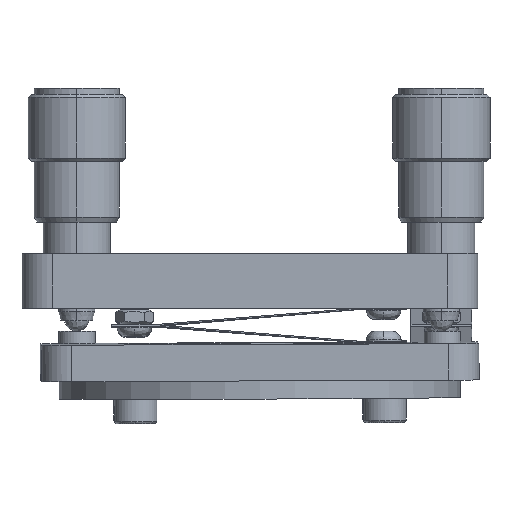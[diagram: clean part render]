
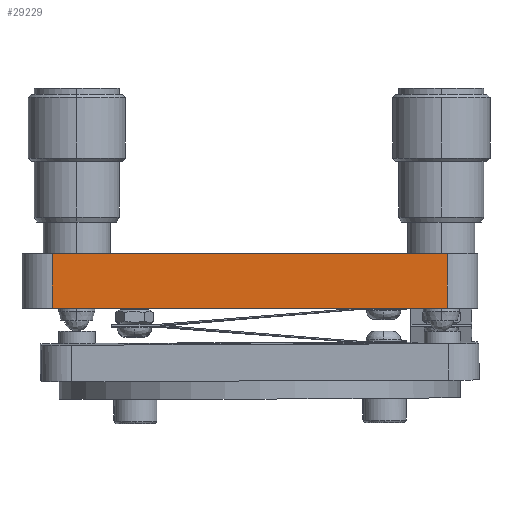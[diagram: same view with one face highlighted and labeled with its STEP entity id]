
A CAD part, left-side view. The second image highlights one B-rep face of the part: STEP entity #29229.
In plain terms, the highlighted planar face has unit normal (-1, 0, 0).
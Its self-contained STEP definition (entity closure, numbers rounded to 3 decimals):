
#12531 = FACE_OUTER_BOUND ( 'NONE', #29230, .T. ) ;
#12533 = PLANE ( 'NONE',  #12583 ) ;
#12535 = DIRECTION ( 'NONE',  ( 0., 0., -1. ) ) ;
#12536 = VECTOR ( 'NONE', #12535, 1000. ) ;
#12537 = CARTESIAN_POINT ( 'NONE',  ( 3., 5., 9. ) ) ;
#12538 = LINE ( 'NONE', #12537, #12536 ) ;
#12544 = CARTESIAN_POINT ( 'NONE',  ( 3., 5., 9. ) ) ;
#12580 = DIRECTION ( 'NONE',  ( 0., -1., 0. ) ) ;
#12581 = DIRECTION ( 'NONE',  ( -1., 0., 0. ) ) ;
#12582 = CARTESIAN_POINT ( 'NONE',  ( 3., 75., 9. ) ) ;
#12583 = AXIS2_PLACEMENT_3D ( 'NONE', #12582, #12581, #12580 ) ;
#12625 = CARTESIAN_POINT ( 'NONE',  ( 3., 70., 9. ) ) ;
#12626 = DIRECTION ( 'NONE',  ( 0., 0., 1. ) ) ;
#12627 = VECTOR ( 'NONE', #12626, 1000. ) ;
#12628 = CARTESIAN_POINT ( 'NONE',  ( 3., 70., 9. ) ) ;
#12629 = LINE ( 'NONE', #12628, #12627 ) ;
#12663 = DIRECTION ( 'NONE',  ( 0., 1., 0. ) ) ;
#12664 = VECTOR ( 'NONE', #12663, 1000. ) ;
#12665 = CARTESIAN_POINT ( 'NONE',  ( 3., 37.5, 9. ) ) ;
#12666 = LINE ( 'NONE', #12665, #12664 ) ;
#17275 = VERTEX_POINT ( 'NONE', #25740 ) ;
#17339 = EDGE_CURVE ( 'NONE', #17341, #17275, #25990, .T. ) ;
#17341 = VERTEX_POINT ( 'NONE', #25987 ) ;
#25740 = CARTESIAN_POINT ( 'NONE',  ( 3., 5., 0. ) ) ;
#25987 = CARTESIAN_POINT ( 'NONE',  ( 3., 70., 0. ) ) ;
#25988 = DIRECTION ( 'NONE',  ( 0., -1., 0. ) ) ;
#25989 = CARTESIAN_POINT ( 'NONE',  ( 3., 75., 0. ) ) ;
#25990 = LINE ( 'NONE', #25989, #25991 ) ;
#25991 = VECTOR ( 'NONE', #25988, 1000. ) ;
#29217 = VERTEX_POINT ( 'NONE', #12544 ) ;
#29222 = EDGE_CURVE ( 'NONE', #29217, #17275, #12538, .T. ) ;
#29229 = ADVANCED_FACE ( 'NONE', ( #12531 ), #12533, .T. ) ;
#29230 = EDGE_LOOP ( 'NONE', ( #29233, #29269, #29273, #29275 ) ) ;
#29233 = ORIENTED_EDGE ( 'NONE', *, *, #29266, .F. ) ;
#29266 = EDGE_CURVE ( 'NONE', #17341, #29267, #12629, .T. ) ;
#29267 = VERTEX_POINT ( 'NONE', #12625 ) ;
#29269 = ORIENTED_EDGE ( 'NONE', *, *, #17339, .T. ) ;
#29273 = ORIENTED_EDGE ( 'NONE', *, *, #29222, .F. ) ;
#29275 = ORIENTED_EDGE ( 'NONE', *, *, #29277, .T. ) ;
#29277 = EDGE_CURVE ( 'NONE', #29217, #29267, #12666, .T. ) ;
